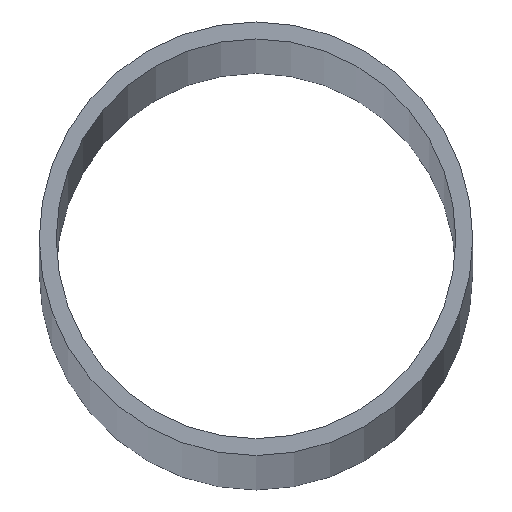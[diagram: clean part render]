
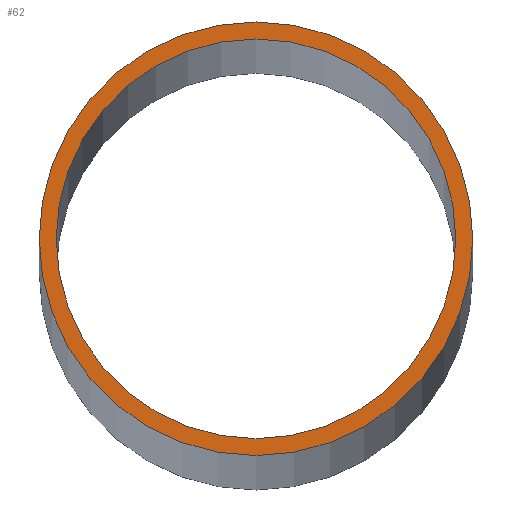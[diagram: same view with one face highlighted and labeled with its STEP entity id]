
A CAD part, top view. The second image highlights one B-rep face of the part: STEP entity #62.
In plain terms, the highlighted planar face has unit normal (0, 0, 1).
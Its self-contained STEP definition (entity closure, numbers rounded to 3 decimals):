
#15=PLANE('',#90);
#19=FACE_BOUND('',#31,.T.);
#23=FACE_OUTER_BOUND('',#30,.T.);
#30=EDGE_LOOP('',(#50));
#31=EDGE_LOOP('',(#51));
#32=CIRCLE('',#84,50.7);
#34=CIRCLE('',#87,55.);
#36=VERTEX_POINT('',#111);
#38=VERTEX_POINT('',#116);
#40=EDGE_CURVE('',#36,#36,#32,.T.);
#42=EDGE_CURVE('',#38,#38,#34,.T.);
#50=ORIENTED_EDGE('',*,*,#42,.T.);
#51=ORIENTED_EDGE('',*,*,#40,.T.);
#62=ADVANCED_FACE('',(#23,#19),#15,.T.);
#84=AXIS2_PLACEMENT_3D('',#112,#95,#96);
#87=AXIS2_PLACEMENT_3D('',#117,#101,#102);
#90=AXIS2_PLACEMENT_3D('',#121,#107,#108);
#95=DIRECTION('center_axis',(0.,0.,-1.));
#96=DIRECTION('ref_axis',(-1.,0.,0.));
#101=DIRECTION('center_axis',(0.,0.,1.));
#102=DIRECTION('ref_axis',(-1.,0.,0.));
#107=DIRECTION('center_axis',(0.,0.,1.));
#108=DIRECTION('ref_axis',(1.,0.,0.));
#111=CARTESIAN_POINT('',(50.7,0.,5000.));
#112=CARTESIAN_POINT('Origin',(0.,0.,5000.));
#116=CARTESIAN_POINT('',(55.,0.,5000.));
#117=CARTESIAN_POINT('Origin',(0.,0.,5000.));
#121=CARTESIAN_POINT('Origin',(0.,0.,5000.));
